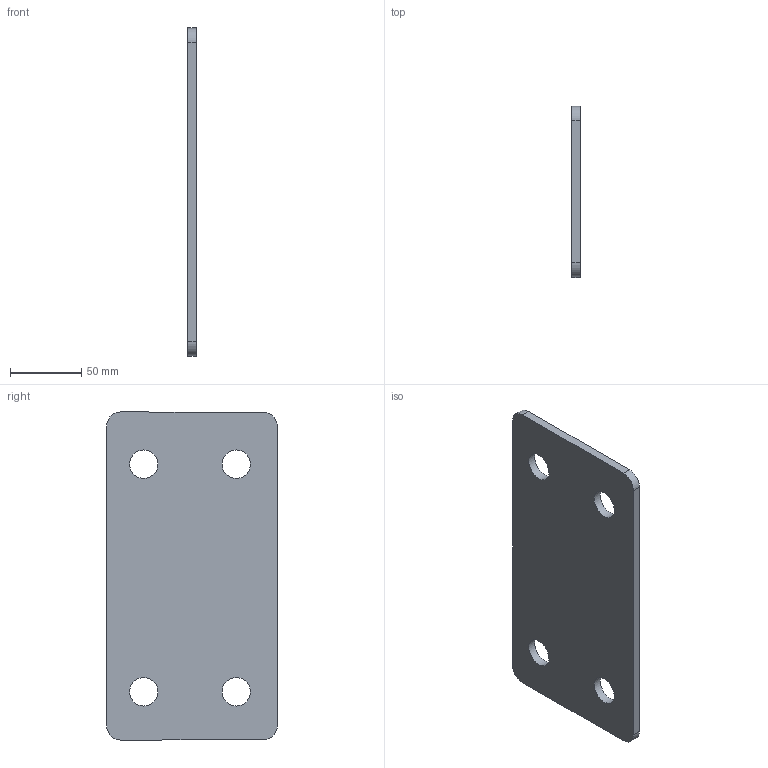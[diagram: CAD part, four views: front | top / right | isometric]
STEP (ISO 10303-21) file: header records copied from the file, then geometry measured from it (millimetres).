
FILE_DESCRIPTION(('STEP AP242'), '1');
FILE_NAME('óëüòà á', '', ('UNSPECIFIED'), ('UNSPECIFIED'), 'C3D Converter', 'C3D Toolkit', '');
FILE_SCHEMA(('AP242_MANAGED_MODEL_BASED_3D_ENGINEERING_MIM_LF { 1 0 10303 442 1 1 4 }'));
Length unit declared in the file: millimetre
Bounding box: 6 x 120 x 230.61 mm (x, y, z)
Volume: 157829.5 mm3; surface area: 58219.5 mm2
Topology: 1 solids, 1 shells, 14 faces, 36 edges, 24 vertices
Faces by surface type: cylinder 8, plane 6
Full cylindrical faces by diameter (mm): 20 x4
Entity records: 472 total; most frequent: DIRECTION 78, CARTESIAN_POINT 71, ORIENTED_EDGE 64, EDGE_CURVE 32, AXIS2_PLACEMENT_3D 31, EDGE_LOOP 26, VERTEX_POINT 24, FACE_BOUND 18
